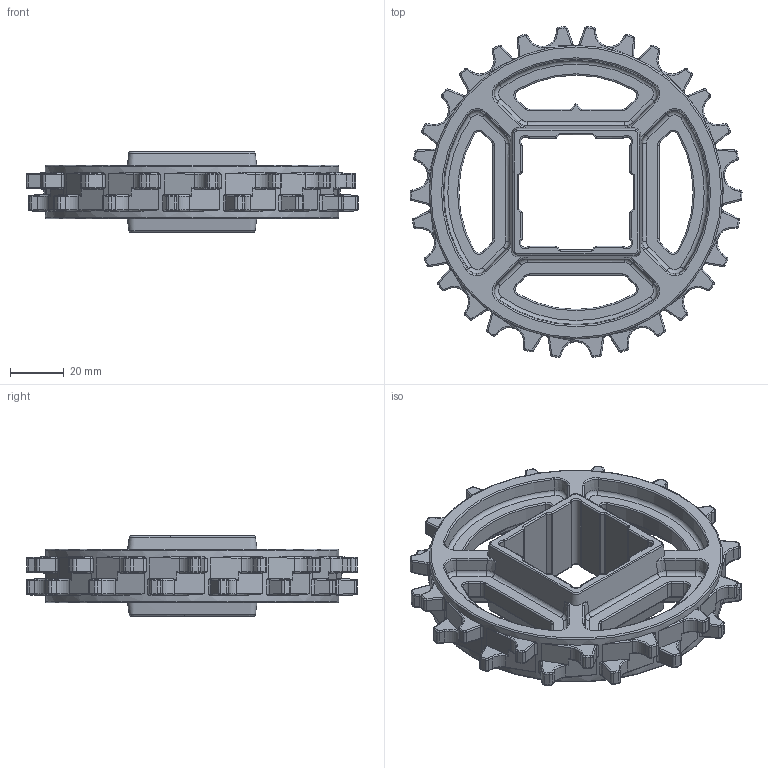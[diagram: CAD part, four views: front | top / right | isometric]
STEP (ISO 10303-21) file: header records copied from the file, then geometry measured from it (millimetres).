
FILE_DESCRIPTION(/* description */ (''),/* implementation_level */ '2;1');
FILE_NAME(/* name */ 'HS-2500A-15T.stp',/* time_stamp */ '2022-11-29T10:02:59+08:00',/* author */ (''),/* organization */ (''),/* preprocessor_version */ 'ST-DEVELOPER v15',/* originating_system */ 'SIEMENS PLM Software NX 8.5',/* authorisation */ '');
FILE_SCHEMA (('AP203_CONFIGURATION_CONTROLLED_3D_DESIGN_OF_MECHANICAL_PARTS_AND_ASSEMBLIES_MIM_LF { 1 0 10303 403 2 1 2}'));
Length unit declared in the file: millimetre
Products named in the file (1): Admi1268988E33o8
Bounding box: 124 x 123.5 x 30 mm (x, y, z)
Volume: 93863.5 mm3; surface area: 37743.4 mm2
Topology: 1 solids, 1 shells, 1218 faces, 2912 edges, 1680 vertices
Faces by surface type: cylinder 479, bspline 360, plane 213, torus 110, sphere 32, cone 24
Full cylindrical faces by diameter (mm): 109.5 x1
Entity records: 40863 total; most frequent: CARTESIAN_POINT 13561, ORIENTED_EDGE 5732, DIRECTION 5722, EDGE_CURVE 2866, AXIS2_PLACEMENT_3D 2397, VERTEX_POINT 1674, EDGE_LOOP 1252, ADVANCED_FACE 1218
